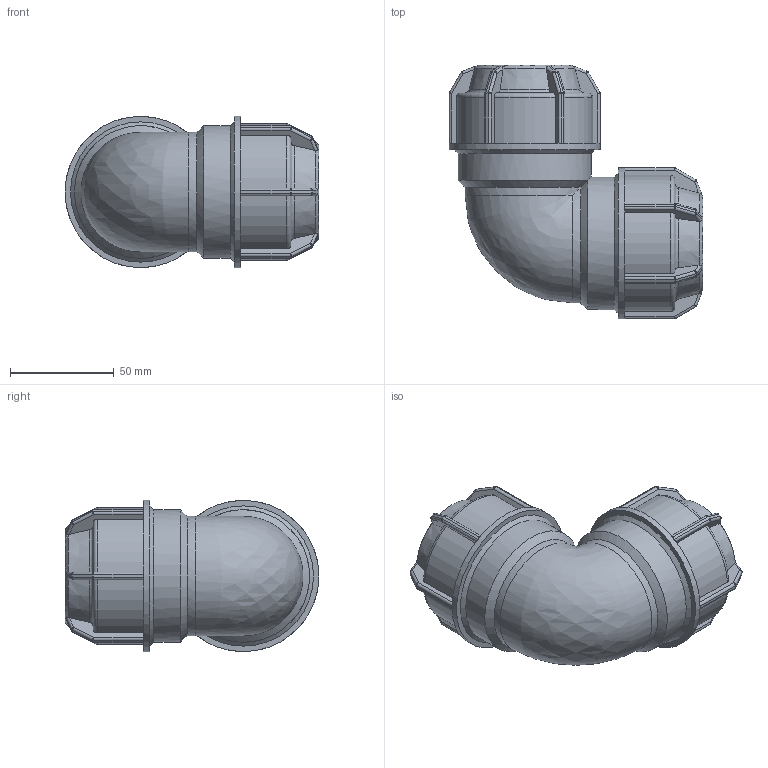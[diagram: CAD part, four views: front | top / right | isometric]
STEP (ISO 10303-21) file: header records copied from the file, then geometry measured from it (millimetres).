
FILE_DESCRIPTION(/* description */ ('PLASSON L.14 90° ELBOW (SILVER) 40-40'),/* implementation_level */ '2;1');
FILE_NAME(/* name */ 'C:\Dropbox\KIMPROJECTS-Inventor\99-16-3568-Processing\Silver+MF ISRAEL\140500\140500040.ipt.stp',/* time_stamp */ '2018-04-09T13:03:48+03:00',/* author */ ('KIM'),/* organization */ (''),/* preprocessor_version */ 'ST-DEVELOPER v15.6',/* originating_system */ 'Autodesk Inventor 2015',/* authorisation */ '');
FILE_SCHEMA (('AUTOMOTIVE_DESIGN { 1 0 10303 214 3 1 1 }'));
Length unit declared in the file: millimetre
Products named in the file (1): 140500040
Bounding box: 122.5 x 122.5 x 73 mm (x, y, z)
Volume: 289091.3 mm3; surface area: 61423 mm2
Topology: 1 solids, 1 shells, 409 faces, 971 edges, 556 vertices
Faces by surface type: plane 193, cylinder 120, sphere 48, torus 29, cone 18, bspline 1
Full cylindrical faces by diameter (mm): 36 x2, 40 x4, 64 x2, 73 x2
Entity records: 11828 total; most frequent: CARTESIAN_POINT 3028, DIRECTION 1854, ORIENTED_EDGE 1818, EDGE_CURVE 909, AXIS2_PLACEMENT_3D 747, VERTEX_POINT 532, EDGE_LOOP 431, FACE_OUTER_BOUND 404
